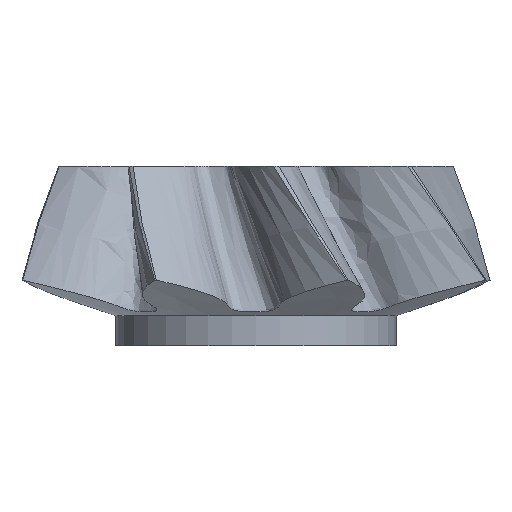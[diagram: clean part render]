
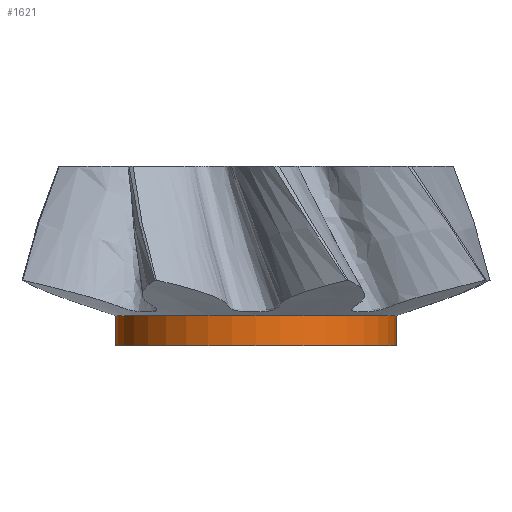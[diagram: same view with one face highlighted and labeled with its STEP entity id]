
A CAD part, front view. The second image highlights one B-rep face of the part: STEP entity #1621.
In plain terms, the highlighted cylindrical face has radius 4.5 mm (diameter 9 mm), a partial arc.
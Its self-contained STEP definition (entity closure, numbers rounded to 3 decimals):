
#16 = CARTESIAN_POINT ( 'NONE',  ( -4.5, 0., -20.2 ) ) ;
#119 = EDGE_LOOP ( 'NONE', ( #1391, #5863, #1333, #5429 ) ) ;
#139 = EDGE_CURVE ( 'NONE', #4820, #1411, #4459, .T. ) ;
#146 = CARTESIAN_POINT ( 'NONE',  ( 0., 0., -20.2 ) ) ;
#231 = EDGE_CURVE ( 'NONE', #3603, #593, #4162, .T. ) ;
#329 = EDGE_CURVE ( 'NONE', #593, #1411, #4657, .T. ) ;
#446 = CYLINDRICAL_SURFACE ( 'NONE', #943, 4.5 ) ;
#556 = DIRECTION ( 'NONE',  ( 0., 0., -1. ) ) ;
#593 = VERTEX_POINT ( 'NONE', #2883 ) ;
#816 = CARTESIAN_POINT ( 'NONE',  ( 4.5, 0., -20.2 ) ) ;
#943 = AXIS2_PLACEMENT_3D ( 'NONE', #146, #2860, #1906 ) ;
#960 = FACE_OUTER_BOUND ( 'NONE', #119, .T. ) ;
#1010 = DIRECTION ( 'NONE',  ( 1., 0., 0. ) ) ;
#1263 = DIRECTION ( 'NONE',  ( 0., 0., 1. ) ) ;
#1333 = ORIENTED_EDGE ( 'NONE', *, *, #231, .T. ) ;
#1391 = ORIENTED_EDGE ( 'NONE', *, *, #139, .F. ) ;
#1411 = VERTEX_POINT ( 'NONE', #2295 ) ;
#1417 = DIRECTION ( 'NONE',  ( 0., 0., -1. ) ) ;
#1621 = ADVANCED_FACE ( 'NONE', ( #960 ), #446, .T. ) ;
#1906 = DIRECTION ( 'NONE',  ( 1., 0., 0. ) ) ;
#2217 = EDGE_CURVE ( 'NONE', #3603, #4820, #2539, .T. ) ;
#2295 = CARTESIAN_POINT ( 'NONE',  ( -4.5, 0., -19.23 ) ) ;
#2539 = CIRCLE ( 'NONE', #4683, 4.5 ) ;
#2801 = AXIS2_PLACEMENT_3D ( 'NONE', #5059, #556, #1010 ) ;
#2860 = DIRECTION ( 'NONE',  ( 0., 0., 1. ) ) ;
#2863 = DIRECTION ( 'NONE',  ( -1., 0., 0. ) ) ;
#2883 = CARTESIAN_POINT ( 'NONE',  ( 4.5, 0., -19.23 ) ) ;
#3603 = VERTEX_POINT ( 'NONE', #5398 ) ;
#3663 = DIRECTION ( 'NONE',  ( 0., 0., 1. ) ) ;
#3704 = CARTESIAN_POINT ( 'NONE',  ( 0., 0., -20.2 ) ) ;
#4162 = LINE ( 'NONE', #816, #4317 ) ;
#4317 = VECTOR ( 'NONE', #1263, 1000. ) ;
#4459 = LINE ( 'NONE', #16, #5421 ) ;
#4657 = CIRCLE ( 'NONE', #2801, 4.5 ) ;
#4683 = AXIS2_PLACEMENT_3D ( 'NONE', #3704, #1417, #2863 ) ;
#4820 = VERTEX_POINT ( 'NONE', #5546 ) ;
#5059 = CARTESIAN_POINT ( 'NONE',  ( 0., 0., -19.23 ) ) ;
#5398 = CARTESIAN_POINT ( 'NONE',  ( 4.5, 0., -20.2 ) ) ;
#5421 = VECTOR ( 'NONE', #3663, 1000. ) ;
#5429 = ORIENTED_EDGE ( 'NONE', *, *, #329, .T. ) ;
#5546 = CARTESIAN_POINT ( 'NONE',  ( -4.5, 0., -20.2 ) ) ;
#5863 = ORIENTED_EDGE ( 'NONE', *, *, #2217, .F. ) ;
